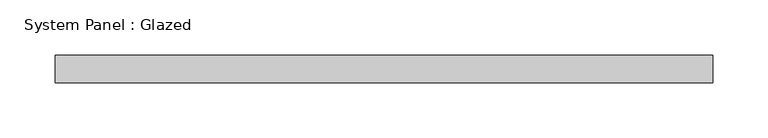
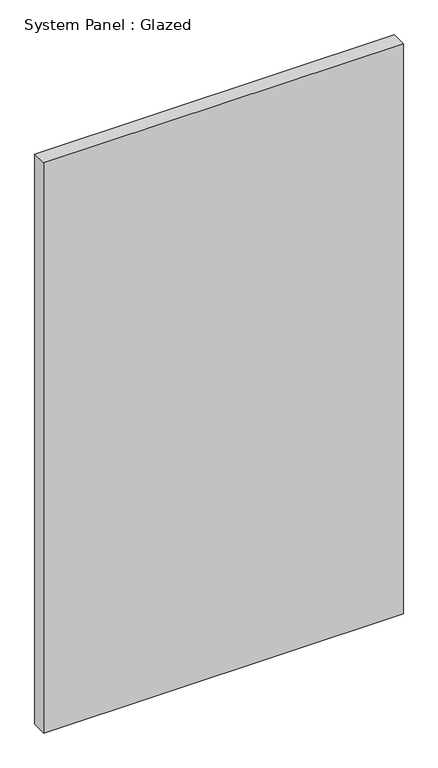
"""IFC4 building model written with IfcOpenShell, lengths in millimetres: plate geometry, System Panel : Glazed."""

from ifc_helpers import new_model, si_unit, origin, origin_with_axes, place, context, project, spatial, polyline, outline, extrude, source, transform, mapped, element, save


def system_panel_glazed_cfa42cd7(model_context):
    return source(origin(), model_context, "Body", "SweptSolid", [
        extrude(outline(polyline([(298.4453293, 24.5), (-298.4453293, 24.5), (-298.4453293, 49.5), (298.4453293, 49.5), (298.4453293, 24.5)])), origin_with_axes(), (0.0, 0.0, 1.0), 1000.0),
    ])


if __name__ == "__main__":
    model = new_model("IFC4")
    model_context = context("Model", 3, world=origin())
    ifc_project = project(units=[si_unit("LENGTHUNIT", "METRE", prefix="MILLI")], contexts=[model_context])
    site = spatial("IfcSite", under=ifc_project)
    building = spatial("IfcBuilding", under=site)
    placement = place(None, origin())
    system_panel_glazed_shape = system_panel_glazed_cfa42cd7(model_context)
    element("IfcPlate", 1, ObjectType="System Panel : Glazed", at=placement, inside=building, context=model_context, shape_type="MappedRepresentation", body=[
        mapped(system_panel_glazed_shape, transform((0.0, 0.0, 0.0), x_axis=(1.0, 0.0, 0.0), y_axis=(0.0, 1.0, 0.0), z_axis=(0.0, 0.0, 1.0))),
    ])
    save(model, "model.ifc")
